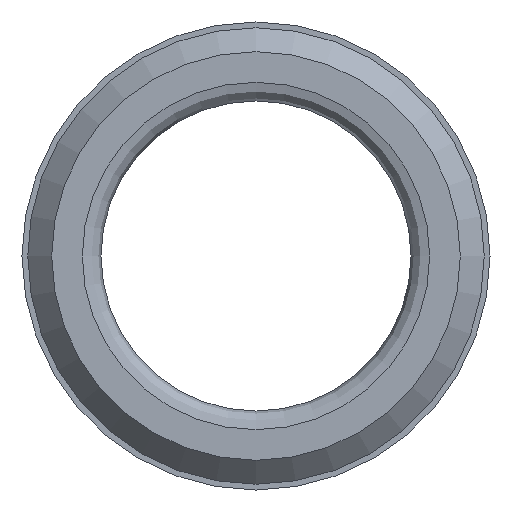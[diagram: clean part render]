
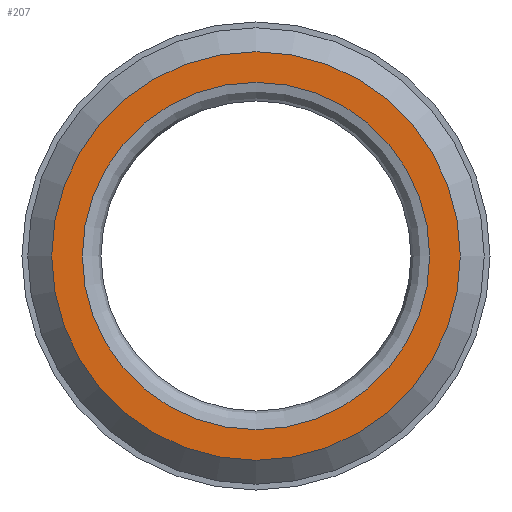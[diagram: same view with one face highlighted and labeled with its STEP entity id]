
A CAD part, front view. The second image highlights one B-rep face of the part: STEP entity #207.
In plain terms, the highlighted planar face has unit normal (0, -1, 0).
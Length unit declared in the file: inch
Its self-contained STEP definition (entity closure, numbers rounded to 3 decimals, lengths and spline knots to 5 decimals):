
#22=FACE_BOUND('',#44,.T.);
#26=PLANE('',#236);
#31=FACE_OUTER_BOUND('',#43,.T.);
#43=EDGE_LOOP('',(#150));
#44=EDGE_LOOP('',(#151,#152));
#68=CIRCLE('',#233,0.11);
#71=CIRCLE('',#237,0.0935);
#72=CIRCLE('',#238,0.0935);
#93=VERTEX_POINT('',#352);
#96=VERTEX_POINT('',#360);
#97=VERTEX_POINT('',#361);
#115=EDGE_CURVE('',#93,#93,#68,.T.);
#119=EDGE_CURVE('',#96,#97,#71,.T.);
#120=EDGE_CURVE('',#97,#96,#72,.T.);
#150=ORIENTED_EDGE('',*,*,#115,.F.);
#151=ORIENTED_EDGE('',*,*,#119,.F.);
#152=ORIENTED_EDGE('',*,*,#120,.F.);
#207=ADVANCED_FACE('',(#31,#22),#26,.T.);
#233=AXIS2_PLACEMENT_3D('',#353,#273,#274);
#236=AXIS2_PLACEMENT_3D('',#359,#280,#281);
#237=AXIS2_PLACEMENT_3D('',#362,#282,#283);
#238=AXIS2_PLACEMENT_3D('',#363,#284,#285);
#273=DIRECTION('center_axis',(0.,1.,0.));
#274=DIRECTION('ref_axis',(0.,0.,1.));
#280=DIRECTION('center_axis',(0.,-1.,0.));
#281=DIRECTION('ref_axis',(0.,0.,-1.));
#282=DIRECTION('center_axis',(0.,-1.,0.));
#283=DIRECTION('ref_axis',(0.,0.,1.));
#284=DIRECTION('center_axis',(0.,-1.,0.));
#285=DIRECTION('ref_axis',(0.,0.,1.));
#352=CARTESIAN_POINT('',(0.,0.,-0.11));
#353=CARTESIAN_POINT('Origin',(0.,0.,0.));
#359=CARTESIAN_POINT('Origin',(0.,0.,-0.0835));
#360=CARTESIAN_POINT('',(0.,0.,-0.0935));
#361=CARTESIAN_POINT('',(0.,0.,0.0935));
#362=CARTESIAN_POINT('Origin',(0.,0.,0.));
#363=CARTESIAN_POINT('Origin',(0.,0.,0.));
